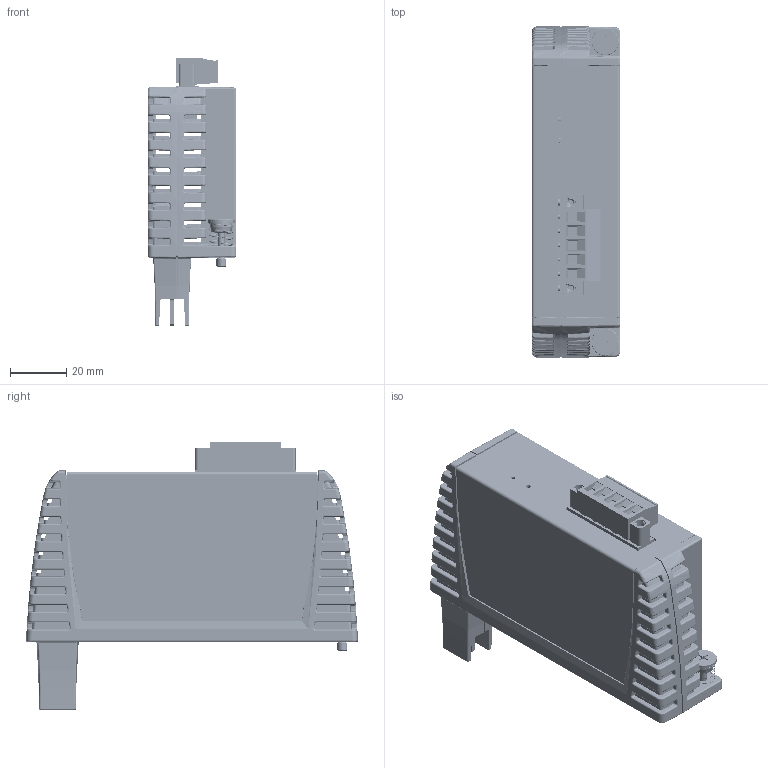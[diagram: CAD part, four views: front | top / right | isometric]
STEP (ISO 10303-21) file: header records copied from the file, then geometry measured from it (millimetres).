
FILE_DESCRIPTION (( 'STEP AP214' ), '1' );
FILE_NAME ('GMDN.STEP', '2014-05-22T11:27:36', ( 'Network Administration' ), ( 'Red Lion Controls Inc.' ), 'SwSTEP 2.0', 'SolidWorks 2013', '' );
FILE_SCHEMA (( 'AUTOMOTIVE_DESIGN' ));
Length unit declared in the file: millimetre
Products named in the file (12): MSTB_2.5-HC-5-STF-5.08; 92010A112; PEM F-632-1; M4904C_CN_DN_2014-04-02; PEM SCBR-632-8 ZI; McMC 91771A143(91771A143); McMC 90692A086; McMC 90402A106; CV514900_MODULE SHEET METAL WRAP(CV115090 CAN MODULE WRAP); CA503100_MODULE CASE, RIGHT HALF; CA503000_MODULE CASE, LEFT HALF; GMDN
Assembly tree (17 placements, depth 2):
  GMDN
    CA503000_MODULE CASE, LEFT HALF
    CA503100_MODULE CASE, RIGHT HALF
    CV514900_MODULE SHEET METAL WRAP(CV115090 CAN MODULE WRAP)
    McMC 90402A106  x2
    McMC 90692A086  x4
    McMC 91771A143(91771A143)
    PEM SCBR-632-8 ZI  x2
    M4904C_CN_DN_2014-04-02
    PEM F-632-1  x2
    92010A112
    MSTB_2.5-HC-5-STF-5.08
Bounding box: 31.5 x 117.84 x 95.19 mm (x, y, z)
Volume: 53379.5 mm3; surface area: 76321.6 mm2
Topology: 22 solids, 38 shells, 5280 faces, 13410 edges, 8122 vertices
Faces by surface type: plane 1641, bspline 1428, cylinder 1385, torus 394, cone 326, sphere 106
Entity records: 184548 total; most frequent: CARTESIAN_POINT 73623, ORIENTED_EDGE 25022, DIRECTION 19770, EDGE_CURVE 12572, VERTEX_POINT 7653, AXIS2_PLACEMENT_3D 7355, EDGE_LOOP 5198, VECTOR 5060
